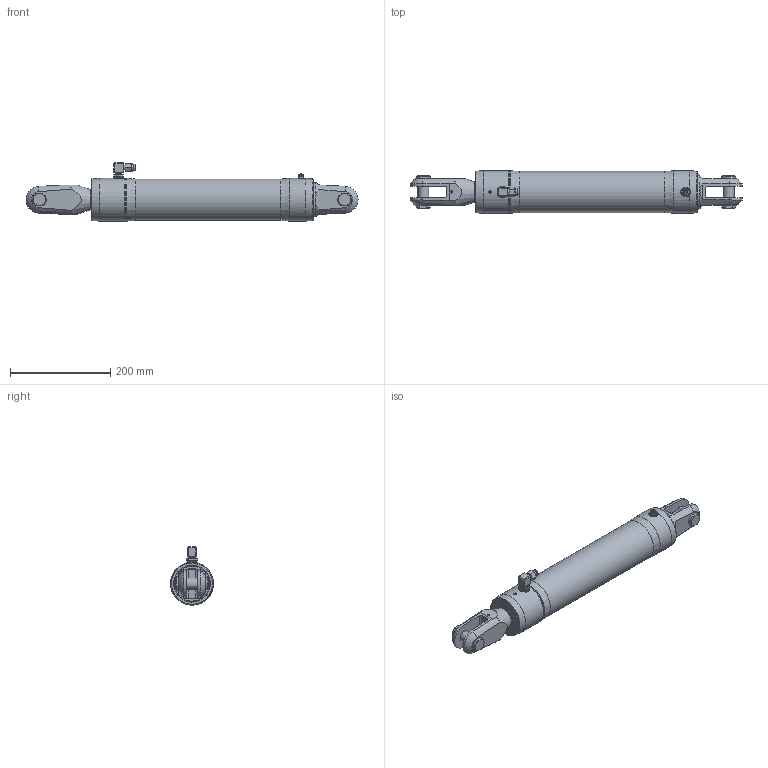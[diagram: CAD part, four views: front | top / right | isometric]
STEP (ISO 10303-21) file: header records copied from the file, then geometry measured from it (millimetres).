
FILE_DESCRIPTION(/* description */ (''),/* implementation_level */ '2;1');
FILE_NAME(/* name */ 'Q:\AA BRAND HYDRAULICS\HYDRAULICS FAMILY DIRECTORY\HYDRAULICS\CYLINDERS\RAMS\ALUMINIUM - STANDARD SINGLE ACTING (-0006 To -0260)\RSA-0030-S0300-NP-71\RSA-0030-S0300-NP-71 (Closed).stp',/* time_stamp */ '2017-11-30T11:06:25+00:00',/* author */ ('Lorena'),/* organization */ (''),/* preprocessor_version */ 'ST-DEVELOPER v16.13',/* originating_system */ 'Autodesk Inventor 2018',/* authorisation */ '');
FILE_SCHEMA (('AUTOMOTIVE_DESIGN { 1 0 10303 214 3 1 1 }'));
Length unit declared in the file: millimetre
Products named in the file (1): RSA-0030-S0300-NP-71 (Closed)
Bounding box: 663.41 x 85.6 x 116.4 mm (x, y, z)
Volume: 2838482.8 mm3; surface area: 192693.2 mm2
Topology: 1 solids, 4 shells, 1615 faces, 4280 edges, 2823 vertices
Faces by surface type: plane 894, bspline 573, cylinder 82, cone 57, torus 5, sphere 4
Full cylindrical faces by diameter (mm): 4 x1, 4.134 x1, 4.2 x2, 4.4 x1, 5 x1, 5.1 x1, 7 x1, 8 x2, 9 x3, 10 x2, 11.11 x1, 11.157 x1, 11.8 x1, 12 x1, 12.157 x1, 13 x1, 13.157 x2, 14.5 x2, 16 x2, 18.3 x2, 22 x1, 22.23 x2, 24 x1, 27.788 x2, 49 x1, 82.6 x1, 85.6 x4
Entity records: 56503 total; most frequent: CARTESIAN_POINT 19217, ORIENTED_EDGE 8314, DIRECTION 5289, EDGE_CURVE 4157, VERTEX_POINT 2786, LINE 2681, VECTOR 2681, EDGE_LOOP 1854
